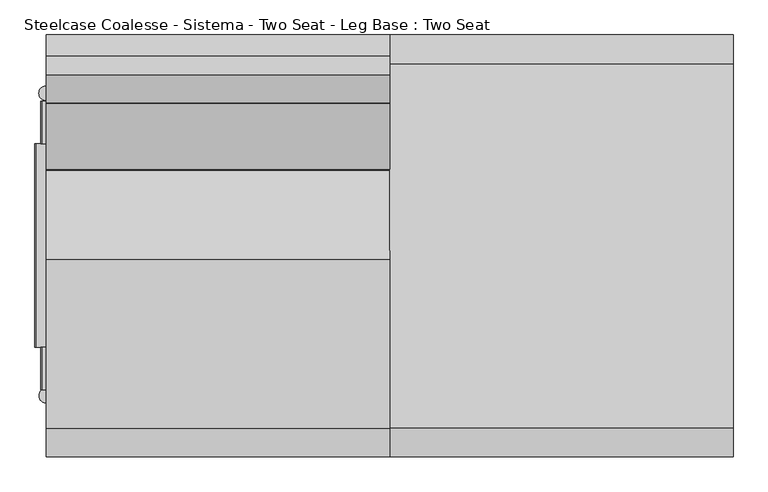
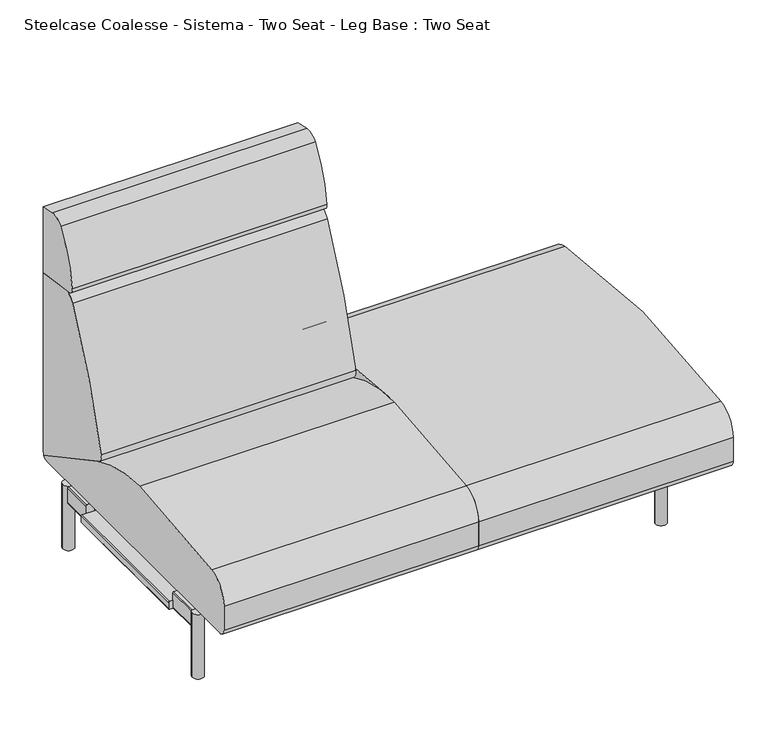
"""IFC4 building model written with IfcOpenShell, lengths in millimetres: furniture geometry, Steelcase Coalesse - Sistema - Two Seat - Leg Base : Two Seat."""

from ifc_helpers import new_model, si_unit, point, frame, frame_2d, origin, origin_with_axes, place, context, project, spatial, polyline, circle_curve, trimmed, segment, composite_curve, outline, extrude, source, transform, mapped, element, save


def steelcase_coalesse_sistema_two_seat_leg_base_two_seat_52fe5814(model_context):
    return source(origin(), model_context, "Body", "SweptSolid", [
        extrude(outline(composite_curve([segment(trimmed(circle_curve(frame_2d((989.1765227, 335.9943389)), 6.096), [point((995.2725227, 335.9943389))], [point((983.0805227, 335.9943389))], False, "CARTESIAN"), True, "CONTINUOUS"), segment(trimmed(circle_curve(frame_2d((989.1765227, 335.9943389)), 6.096), [point((983.0805227, 335.9943389))], [point((995.2725227, 335.9943389))], False, "CARTESIAN"), True, "CONTINUOUS")], self_intersect=False)), origin_with_axes(), (0.0, 0.0, 1.0), 4.3662291),
        extrude(outline(composite_curve([segment(trimmed(circle_curve(frame_2d((989.1765227, -327.2630889)), 6.096), [point((995.2725227, -327.2630889))], [point((983.0805227, -327.2630889))], False, "CARTESIAN"), True, "CONTINUOUS"), segment(trimmed(circle_curve(frame_2d((989.1765227, -327.2630889)), 6.096), [point((983.0805227, -327.2630889))], [point((995.2725227, -327.2630889))], False, "CARTESIAN"), True, "CONTINUOUS")], self_intersect=False)), origin_with_axes(), (0.0, 0.0, 1.0), 4.3662291),
        extrude(outline(composite_curve([segment(polyline([(157.0399209, 1001.756375), (201.7356243, 1001.756375)]), True, "CONTINUOUS"), segment(trimmed(circle_curve(frame_2d((201.7356243, 998.708375)), 3.048), [point((201.7356243, 1001.756375))], [point((204.7836243, 998.708375))], False, "CARTESIAN"), True, "CONTINUOUS"), segment(polyline([(204.7836243, 998.708375), (204.7836243, 979.366199)]), True, "CONTINUOUS"), segment(trimmed(circle_curve(frame_2d((201.7356243, 979.366199)), 3.048), [point((204.7836243, 979.366199))], [point((201.7356243, 976.318199))], False, "CARTESIAN"), True, "CONTINUOUS"), segment(polyline([(201.7356243, 976.318199), (157.1249936, 976.318199)]), True, "CONTINUOUS"), segment(trimmed(circle_curve(frame_2d((157.1249936, 979.4512718)), 3.1330728), [point((157.1249936, 976.318199))], [point((153.9919209, 979.4512718))], False, "CARTESIAN"), True, "CONTINUOUS"), segment(polyline([(153.9919209, 979.4512718), (153.9919209, 998.708375)]), True, "CONTINUOUS"), segment(trimmed(circle_curve(frame_2d((157.0399209, 998.708375)), 3.048), [point((153.9919209, 998.708375))], [point((157.0399209, 1001.756375))], False, "CARTESIAN"), True, "CONTINUOUS")], self_intersect=False)), frame((0.0, 222.3519802, 0.0), z_axis=(0.0, 1.0, 0.0), x_axis=(0.0, 0.0, 1.0)), (0.0, 0.0, 1.0), 92.6273161),
        extrude(outline(composite_curve([segment(polyline([(157.0399209, 1001.756375), (201.7356243, 1001.756375)]), True, "CONTINUOUS"), segment(trimmed(circle_curve(frame_2d((201.7356243, 998.708375)), 3.048), [point((201.7356243, 1001.756375))], [point((204.7836243, 998.708375))], False, "CARTESIAN"), True, "CONTINUOUS"), segment(polyline([(204.7836243, 998.708375), (204.7836243, 979.366199)]), True, "CONTINUOUS"), segment(trimmed(circle_curve(frame_2d((201.7356243, 979.366199)), 3.048), [point((204.7836243, 979.366199))], [point((201.7356243, 976.318199))], False, "CARTESIAN"), True, "CONTINUOUS"), segment(polyline([(201.7356243, 976.318199), (157.1249936, 976.318199)]), True, "CONTINUOUS"), segment(trimmed(circle_curve(frame_2d((157.1249936, 979.4512718)), 3.1330728), [point((157.1249936, 976.318199))], [point((153.9919209, 979.4512718))], False, "CARTESIAN"), True, "CONTINUOUS"), segment(polyline([(153.9919209, 979.4512718), (153.9919209, 998.708375)]), True, "CONTINUOUS"), segment(trimmed(circle_curve(frame_2d((157.0399209, 998.708375)), 3.048), [point((153.9919209, 998.708375))], [point((157.0399209, 1001.756375))], False, "CARTESIAN"), True, "CONTINUOUS")], self_intersect=False)), frame((0.0, -314.9792963, 0.0), z_axis=(0.0, 1.0, 0.0), x_axis=(0.0, 0.0, 1.0)), (0.0, 0.0, 1.0), 92.6273161),
        extrude(outline(composite_curve([segment(trimmed(circle_curve(frame_2d((176.3356606, 966.5259944)), 3.048), [point((179.3836606, 966.5259944))], [point((176.3356606, 963.4779944))], False, "CARTESIAN"), True, "CONTINUOUS"), segment(polyline([(176.3356606, 963.4779944), (157.0399209, 963.4779944)]), True, "CONTINUOUS"), segment(trimmed(circle_curve(frame_2d((157.0399209, 966.5259944)), 3.048), [point((157.0399209, 963.4779944))], [point((153.9919209, 966.5259944))], False, "CARTESIAN"), True, "CONTINUOUS"), segment(polyline([(153.9919209, 966.5259944), (153.9919209, 1011.2135501)]), True, "CONTINUOUS"), segment(trimmed(circle_curve(frame_2d((157.056462, 1011.2135501)), 3.0645412), [point((153.9919209, 1011.2135501))], [point((157.056462, 1014.2780913))], False, "CARTESIAN"), True, "CONTINUOUS"), segment(polyline([(157.056462, 1014.2780913), (176.3356606, 1014.2780913)]), True, "CONTINUOUS"), segment(trimmed(circle_curve(frame_2d((176.3356606, 1011.2300913)), 3.048), [point((176.3356606, 1014.2780913))], [point((179.3836606, 1011.2300913))], False, "CARTESIAN"), True, "CONTINUOUS"), segment(polyline([(179.3836606, 1011.2300913), (179.3836606, 966.5259944)]), True, "CONTINUOUS")], self_intersect=False)), frame((0.0, -222.3519802, 0.0), z_axis=(0.0, 1.0, 0.0), x_axis=(0.0, 0.0, 1.0)), (0.0, 0.0, 1.0), 444.7039604),
        extrude(outline(composite_curve([segment(trimmed(circle_curve(frame_2d((989.1765227, 332.3095741)), 16.51), [point((1005.6865227, 332.3095741))], [point((972.6665227, 332.3095741))], False, "CARTESIAN"), True, "CONTINUOUS"), segment(trimmed(circle_curve(frame_2d((989.1765227, 332.3095741)), 16.51), [point((972.6665227, 332.3095741))], [point((1005.6865227, 332.3095741))], False, "CARTESIAN"), True, "CONTINUOUS")], self_intersect=False)), frame((0.0, 0.0, 4.3662291), z_axis=(0.0, 0.0, 1.0), x_axis=(1.0, 0.0, 0.0)), (0.0, 0.0, 1.0), 200.1037709),
        extrude(outline(composite_curve([segment(trimmed(circle_curve(frame_2d((988.7796477, -327.5470741)), 16.51), [point((1005.2896477, -327.5470741))], [point((972.2696477, -327.5470741))], False, "CARTESIAN"), True, "CONTINUOUS"), segment(trimmed(circle_curve(frame_2d((988.7796477, -327.5470741)), 16.51), [point((972.2696477, -327.5470741))], [point((1005.2896477, -327.5470741))], False, "CARTESIAN"), True, "CONTINUOUS")], self_intersect=False)), frame((0.0, 0.0, 4.3662291), z_axis=(0.0, 0.0, 1.0), x_axis=(1.0, 0.0, 0.0)), (0.0, 0.0, 1.0), 200.1037709),
        extrude(outline(composite_curve([segment(polyline([(459.4795619, 985.4592709), (459.4795619, 780.845009), (327.9700683, 799.327463)]), True, "CONTINUOUS"), segment(trimmed(circle_curve(frame_2d((330.6213159, 818.1920697)), 19.05), [point((327.9700683, 799.327463))], [point((311.7521971, 820.8110119))], False, "CARTESIAN"), True, "CONTINUOUS"), segment(trimmed(circle_curve(frame_2d((679.5815991, 769.7580741)), 371.3554516), [point((311.7521971, 820.8110119))], [point((372.1246101, 978.0249014))], False, "CARTESIAN"), True, "CONTINUOUS"), segment(trimmed(circle_curve(frame_2d((405.8944569, 955.1497055)), 40.7881985), [point((372.1246101, 978.0249014))], [point((414.3748002, 995.046584))], False, "CARTESIAN"), True, "CONTINUOUS"), segment(polyline([(414.3748002, 995.046584), (459.4795619, 985.4592709)]), True, "CONTINUOUS")], self_intersect=False)), frame((-374.8034773, 0.0, 0.0), z_axis=(1.0, 0.0, 0.0), x_axis=(0.0, 1.0, 0.0)), (0.0, 0.0, 1.0), 749.3),
        extrude(outline(composite_curve([segment(polyline([(459.4795619, 780.845009), (459.4795619, 228.1929806)]), True, "CONTINUOUS"), segment(trimmed(circle_curve(frame_2d((191.495971, 228.1929806)), 267.983591), [point((459.4795619, 228.1929806))], [point((458.9860775, 211.937276))], False, "CARTESIAN"), True, "CONTINUOUS"), segment(polyline([(458.9860775, 211.937276), (177.4990556, 364.1028799)]), True, "CONTINUOUS"), segment(trimmed(circle_curve(frame_2d((189.5778307, 386.4470781)), 25.4), [point((177.4990556, 364.1028799))], [point((164.9600055, 392.7018911))], False, "CARTESIAN"), True, "CONTINUOUS"), segment(trimmed(circle_curve(frame_2d((1918.112812, -52.7331923)), 1808.8552115), [point((164.9600055, 392.7018911))], [point((310.2880264, 776.0349508))], False, "CARTESIAN"), True, "CONTINUOUS"), segment(trimmed(circle_curve(frame_2d((344.1537133, 758.5785695)), 38.1), [point((310.2880264, 776.0349508))], [point((349.4562085, 796.3077829))], False, "CARTESIAN"), True, "CONTINUOUS"), segment(polyline([(349.4562085, 796.3077829), (459.4795619, 780.845009)]), True, "CONTINUOUS")], self_intersect=False)), frame((-374.8034773, 0.0, 0.0), z_axis=(1.0, 0.0, 0.0), x_axis=(0.0, 1.0, 0.0)), (0.0, 0.0, 1.0), 749.3),
        extrude(outline(composite_curve([segment(trimmed(circle_curve(frame_2d((-438.9184381, 226.822)), 22.352), [point((-438.9184381, 204.47))], [point((-461.2704381, 226.822))], False, "CARTESIAN"), True, "CONTINUOUS"), segment(polyline([(-461.2704381, 226.822), (-461.2704381, 301.4421993)]), True, "CONTINUOUS"), segment(trimmed(circle_curve(frame_2d((-385.0704381, 301.4421993)), 76.2), [point((-461.2704381, 301.4421993))], [point((-398.9277015, 376.3716077))], False, "CARTESIAN"), True, "CONTINUOUS"), segment(trimmed(circle_curve(frame_2d((2.2103559, -1792.6740646)), 2205.8265729), [point((-398.9277015, 376.3716077))], [point((-31.1968175, 412.8995185))], False, "CARTESIAN"), True, "CONTINUOUS"), segment(trimmed(circle_curve(frame_2d((-24.5128424, -28.3829182)), 441.333054), [point((-31.1968175, 412.8995185))], [point((184.5757008, 360.2774035))], False, "CARTESIAN"), True, "CONTINUOUS"), segment(polyline([(184.5757008, 360.2774035), (458.9860775, 211.937276)]), True, "CONTINUOUS"), segment(trimmed(circle_curve(frame_2d((442.3266309, 226.7871991)), 22.3171991), [point((458.9860775, 211.937276))], [point((442.3266309, 204.47))], False, "CARTESIAN"), True, "CONTINUOUS"), segment(polyline([(442.3266309, 204.47), (-438.9184381, 204.47)]), True, "CONTINUOUS")], self_intersect=False)), frame((-374.8034773, 0.0, 0.0), z_axis=(1.0, 0.0, 0.0), x_axis=(0.0, 1.0, 0.0)), (0.0, 0.0, 1.0), 749.3),
        extrude(outline(composite_curve([segment(trimmed(circle_curve(frame_2d((-438.9184381, 226.822)), 22.352), [point((-438.9184381, 204.47))], [point((-461.2704381, 226.822))], False, "CARTESIAN"), True, "CONTINUOUS"), segment(polyline([(-461.2704381, 226.822), (-461.2704381, 301.4421993)]), True, "CONTINUOUS"), segment(trimmed(circle_curve(frame_2d((-385.0704381, 301.4421993)), 76.2), [point((-461.2704381, 301.4421993))], [point((-398.9279534, 376.3715612))], False, "CARTESIAN"), True, "CONTINUOUS"), segment(trimmed(circle_curve(frame_2d((-0.3717831, -1778.6727457)), 2191.5891461), [point((-398.9279534, 376.3715612))], [point((397.0993513, 376.5719464))], False, "CARTESIAN"), True, "CONTINUOUS"), segment(trimmed(circle_curve(frame_2d((383.2795619, 301.6356173)), 76.2), [point((397.0993513, 376.5719464))], [point((459.4795619, 301.6356173))], False, "CARTESIAN"), True, "CONTINUOUS"), segment(polyline([(459.4795619, 301.6356173), (459.4795619, 226.7871991)]), True, "CONTINUOUS"), segment(trimmed(circle_curve(frame_2d((437.1623628, 226.7871991)), 22.3171991), [point((459.4795619, 226.7871991))], [point((437.1623628, 204.47))], False, "CARTESIAN"), True, "CONTINUOUS"), segment(polyline([(437.1623628, 204.47), (-438.9184381, 204.47)]), True, "CONTINUOUS")], self_intersect=False)), frame((374.4965227, 0.0, 0.0), z_axis=(1.0, 0.0, 0.0), x_axis=(0.0, 1.0, 0.0)), (0.0, 0.0, 1.0), 749.3),
        extrude(outline(composite_curve([segment(trimmed(circle_curve(frame_2d((-374.8148993, 335.9943389)), 6.096), [point((-380.9108993, 335.9943389))], [point((-368.7188993, 335.9943389))], False, "CARTESIAN"), True, "CONTINUOUS"), segment(trimmed(circle_curve(frame_2d((-374.8148993, 335.9943389)), 6.096), [point((-368.7188993, 335.9943389))], [point((-380.9108993, 335.9943389))], False, "CARTESIAN"), True, "CONTINUOUS")], self_intersect=False)), origin_with_axes(), (0.0, 0.0, 1.0), 4.3662291),
        extrude(outline(composite_curve([segment(trimmed(circle_curve(frame_2d((-374.8148993, -327.2630889)), 6.096), [point((-380.9108993, -327.2630889))], [point((-368.7188993, -327.2630889))], False, "CARTESIAN"), True, "CONTINUOUS"), segment(trimmed(circle_curve(frame_2d((-374.8148993, -327.2630889)), 6.096), [point((-368.7188993, -327.2630889))], [point((-380.9108993, -327.2630889))], False, "CARTESIAN"), True, "CONTINUOUS")], self_intersect=False)), origin_with_axes(), (0.0, 0.0, 1.0), 4.3662291),
        extrude(outline(composite_curve([segment(trimmed(circle_curve(frame_2d((157.0399209, -384.3467516)), 3.048), [point((157.0399209, -387.3947516))], [point((153.9919209, -384.3467516))], False, "CARTESIAN"), True, "CONTINUOUS"), segment(polyline([(153.9919209, -384.3467516), (153.9919209, -365.0896485)]), True, "CONTINUOUS"), segment(trimmed(circle_curve(frame_2d((157.1249936, -365.0896485)), 3.1330728), [point((153.9919209, -365.0896485))], [point((157.1249936, -361.9565757))], False, "CARTESIAN"), True, "CONTINUOUS"), segment(polyline([(157.1249936, -361.9565757), (201.7356243, -361.9565757)]), True, "CONTINUOUS"), segment(trimmed(circle_curve(frame_2d((201.7356243, -365.0045757)), 3.048), [point((201.7356243, -361.9565757))], [point((204.7836243, -365.0045757))], False, "CARTESIAN"), True, "CONTINUOUS"), segment(polyline([(204.7836243, -365.0045757), (204.7836243, -384.3467516)]), True, "CONTINUOUS"), segment(trimmed(circle_curve(frame_2d((201.7356243, -384.3467516)), 3.048), [point((204.7836243, -384.3467516))], [point((201.7356243, -387.3947516))], False, "CARTESIAN"), True, "CONTINUOUS"), segment(polyline([(201.7356243, -387.3947516), (157.0399209, -387.3947516)]), True, "CONTINUOUS")], self_intersect=False)), frame((0.0, 222.3519802, 0.0), z_axis=(0.0, 1.0, 0.0), x_axis=(0.0, 0.0, 1.0)), (0.0, 0.0, 1.0), 92.6273161),
        extrude(outline(composite_curve([segment(trimmed(circle_curve(frame_2d((157.0399209, -384.3467516)), 3.048), [point((157.0399209, -387.3947516))], [point((153.9919209, -384.3467516))], False, "CARTESIAN"), True, "CONTINUOUS"), segment(polyline([(153.9919209, -384.3467516), (153.9919209, -365.0896485)]), True, "CONTINUOUS"), segment(trimmed(circle_curve(frame_2d((157.1249936, -365.0896485)), 3.1330728), [point((153.9919209, -365.0896485))], [point((157.1249936, -361.9565757))], False, "CARTESIAN"), True, "CONTINUOUS"), segment(polyline([(157.1249936, -361.9565757), (201.7356243, -361.9565757)]), True, "CONTINUOUS"), segment(trimmed(circle_curve(frame_2d((201.7356243, -365.0045757)), 3.048), [point((201.7356243, -361.9565757))], [point((204.7836243, -365.0045757))], False, "CARTESIAN"), True, "CONTINUOUS"), segment(polyline([(204.7836243, -365.0045757), (204.7836243, -384.3467516)]), True, "CONTINUOUS"), segment(trimmed(circle_curve(frame_2d((201.7356243, -384.3467516)), 3.048), [point((204.7836243, -384.3467516))], [point((201.7356243, -387.3947516))], False, "CARTESIAN"), True, "CONTINUOUS"), segment(polyline([(201.7356243, -387.3947516), (157.0399209, -387.3947516)]), True, "CONTINUOUS")], self_intersect=False)), frame((0.0, -314.9792963, 0.0), z_axis=(0.0, 1.0, 0.0), x_axis=(0.0, 0.0, 1.0)), (0.0, 0.0, 1.0), 92.6273161),
        extrude(outline(composite_curve([segment(polyline([(179.3836606, -352.1643711), (179.3836606, -396.8684679)]), True, "CONTINUOUS"), segment(trimmed(circle_curve(frame_2d((176.3356606, -396.8684679)), 3.048), [point((179.3836606, -396.8684679))], [point((176.3356606, -399.9164679))], False, "CARTESIAN"), True, "CONTINUOUS"), segment(polyline([(176.3356606, -399.9164679), (157.056462, -399.9164679)]), True, "CONTINUOUS"), segment(trimmed(circle_curve(frame_2d((157.056462, -396.8519268)), 3.0645412), [point((157.056462, -399.9164679))], [point((153.9919209, -396.8519268))], False, "CARTESIAN"), True, "CONTINUOUS"), segment(polyline([(153.9919209, -396.8519268), (153.9919209, -352.1643711)]), True, "CONTINUOUS"), segment(trimmed(circle_curve(frame_2d((157.0399209, -352.1643711)), 3.048), [point((153.9919209, -352.1643711))], [point((157.0399209, -349.1163711))], False, "CARTESIAN"), True, "CONTINUOUS"), segment(polyline([(157.0399209, -349.1163711), (176.3356606, -349.1163711)]), True, "CONTINUOUS"), segment(trimmed(circle_curve(frame_2d((176.3356606, -352.1643711)), 3.048), [point((176.3356606, -349.1163711))], [point((179.3836606, -352.1643711))], False, "CARTESIAN"), True, "CONTINUOUS")], self_intersect=False)), frame((0.0, -222.3519802, 0.0), z_axis=(0.0, 1.0, 0.0), x_axis=(0.0, 0.0, 1.0)), (0.0, 0.0, 1.0), 444.7039604),
        extrude(outline(composite_curve([segment(trimmed(circle_curve(frame_2d((-374.8148993, 332.3095741)), 16.51), [point((-391.3248993, 332.3095741))], [point((-358.3048993, 332.3095741))], False, "CARTESIAN"), True, "CONTINUOUS"), segment(trimmed(circle_curve(frame_2d((-374.8148993, 332.3095741)), 16.51), [point((-358.3048993, 332.3095741))], [point((-391.3248993, 332.3095741))], False, "CARTESIAN"), True, "CONTINUOUS")], self_intersect=False)), frame((0.0, 0.0, 4.3662291), z_axis=(0.0, 0.0, 1.0), x_axis=(1.0, 0.0, 0.0)), (0.0, 0.0, 1.0), 200.1037709),
        extrude(outline(composite_curve([segment(trimmed(circle_curve(frame_2d((-374.4180243, -327.5470741)), 16.51), [point((-390.9280243, -327.5470741))], [point((-357.9080243, -327.5470741))], False, "CARTESIAN"), True, "CONTINUOUS"), segment(trimmed(circle_curve(frame_2d((-374.4180243, -327.5470741)), 16.51), [point((-357.9080243, -327.5470741))], [point((-390.9280243, -327.5470741))], False, "CARTESIAN"), True, "CONTINUOUS")], self_intersect=False)), frame((0.0, 0.0, 4.3662291), z_axis=(0.0, 0.0, 1.0), x_axis=(1.0, 0.0, 0.0)), (0.0, 0.0, 1.0), 200.1037709),
    ])


if __name__ == "__main__":
    model = new_model("IFC4")
    model_context = context("Model", 3, world=origin())
    ifc_project = project(units=[si_unit("LENGTHUNIT", "METRE", prefix="MILLI")], contexts=[model_context])
    site = spatial("IfcSite", under=ifc_project)
    building = spatial("IfcBuilding", under=site)
    placement = place(None, origin())
    steelcase_coalesse_sistema_two_seat_leg_base_two_seat_shape = steelcase_coalesse_sistema_two_seat_leg_base_two_seat_52fe5814(model_context)
    element("IfcFurniture", 1, ObjectType="Steelcase Coalesse - Sistema - Two Seat - Leg Base : Two Seat", at=placement, inside=building, context=model_context, shape_type="MappedRepresentation", body=[
        mapped(steelcase_coalesse_sistema_two_seat_leg_base_two_seat_shape, transform((0.0, 0.0, 0.0), x_axis=(1.0, 0.0, 0.0), y_axis=(0.0, 1.0, 0.0), z_axis=(0.0, 0.0, 1.0))),
    ])
    save(model, "model.ifc")
